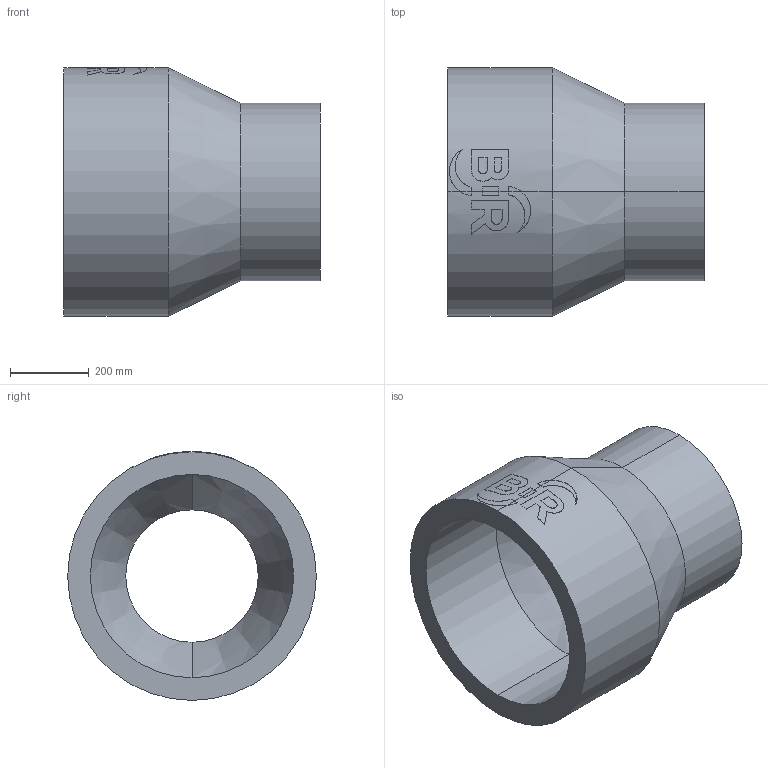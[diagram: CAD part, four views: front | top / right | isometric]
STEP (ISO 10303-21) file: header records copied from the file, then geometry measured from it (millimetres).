
FILE_DESCRIPTION (( 'STEP AP214' ), '1' );
FILE_NAME ('2323292615.STEP', '2018-07-20T11:26:37', ( '' ), ( '' ), 'SwSTEP 2.0', 'SolidWorks 2017', '' );
FILE_SCHEMA (( 'AUTOMOTIVE_DESIGN' ));
Length unit declared in the file: millimetre
Products named in the file (1): 2323292615
Bounding box: 650 x 630 x 630.46 mm (x, y, z)
Volume: 59020448.1 mm3; surface area: 2237769.2 mm2
Topology: 1 solids, 1 shells, 63 faces, 160 edges, 104 vertices
Faces by surface type: cylinder 31, plane 28, cone 4
Entity records: 3576 total; most frequent: CARTESIAN_POINT 1367, ORIENTED_EDGE 320, DIRECTION 296, EDGE_CURVE 160, AXIS2_PLACEMENT_3D 112, VERTEX_POINT 104, VECTOR 72, LINE 72
